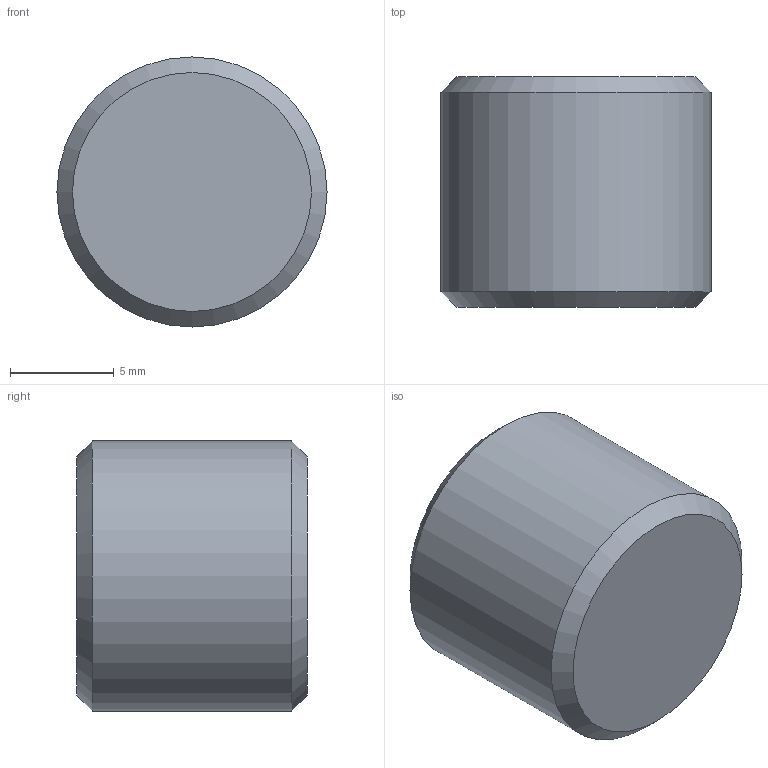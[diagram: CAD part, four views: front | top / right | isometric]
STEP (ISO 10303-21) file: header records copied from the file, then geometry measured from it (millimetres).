
FILE_DESCRIPTION(/* description */ (''),/* implementation_level */ '2;1');
FILE_NAME(/* name */ 'C:/Users/drich/Desktop/cad/Plugs/NPT Pipe Plugs/Stainless/BD-14 v1.step',/* time_stamp */ '2020-01-10T11:15:27-06:00',/* author */ (''),/* organization */ (''),/* preprocessor_version */ 'ST-DEVELOPER v18',/* originating_system */ 'Autodesk Translation Framework v8.12.0.6',/* authorisation */ '');
FILE_SCHEMA (('AUTOMOTIVE_DESIGN { 1 0 10303 214 3 1 1 }'));
Length unit declared in the file: inch
Products named in the file (1): BD-14
Bounding box: 13.03 x 11.13 x 13.03 mm (x, y, z)
Volume: 1220.1 mm3; surface area: 830.4 mm2
Topology: 1 solids, 1 shells, 13 faces, 35 edges, 25 vertices
Faces by surface type: plane 9, cone 3, cylinder 1
Full cylindrical faces by diameter (mm): 13.032 x1
Entity records: 446 total; most frequent: CARTESIAN_POINT 98, ORIENTED_EDGE 70, DIRECTION 58, EDGE_CURVE 35, VERTEX_POINT 25, AXIS2_PLACEMENT_3D 21, LINE 16, VECTOR 16
